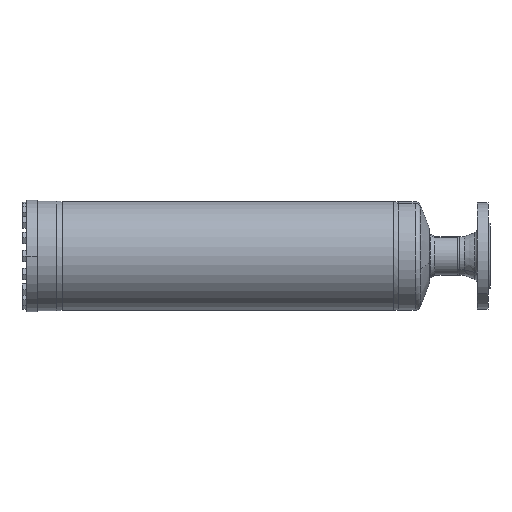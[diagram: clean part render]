
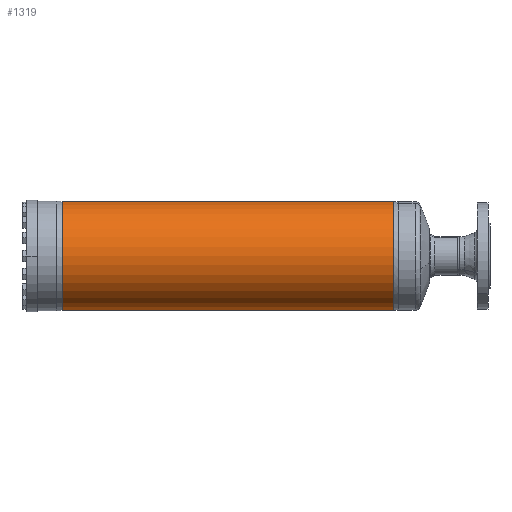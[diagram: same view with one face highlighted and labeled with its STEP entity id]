
A CAD part, left-side view. The second image highlights one B-rep face of the part: STEP entity #1319.
In plain terms, the highlighted cylindrical face has radius 84.15 mm (diameter 168.3 mm), a partial arc.
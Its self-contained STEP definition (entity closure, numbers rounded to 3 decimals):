
#16397 = CARTESIAN_POINT ( 'NONE',  ( 0., 516.536, 84.15 ) ) ;
#16609 = EDGE_CURVE ( 'NONE', #6185, #5025, #4671, .T. ) ;
#511 = ORIENTED_EDGE ( 'NONE', *, *, #8710, .F. ) ;
#17008 = ORIENTED_EDGE ( 'NONE', *, *, #16609, .T. ) ;
#1063 = EDGE_LOOP ( 'NONE', ( #511, #17008, #15897, #15344 ) ) ;
#1319 = ADVANCED_FACE ( 'NONE', ( #10488 ), #10489, .T. ) ;
#1887 = LINE ( 'NONE', #1888, #1889 ) ;
#1888 = CARTESIAN_POINT ( 'NONE',  ( 0., 0., -84.15 ) ) ;
#1889 = VECTOR ( 'NONE', #1890, 1000. ) ;
#1890 = DIRECTION ( 'NONE',  ( 0., -1., 0. ) ) ;
#3408 = CARTESIAN_POINT ( 'NONE',  ( 0., 3.464, -84.15 ) ) ;
#4671 = CIRCLE ( 'NONE', #4672, 84.15 ) ;
#4672 = AXIS2_PLACEMENT_3D ( 'NONE', #4673, #4674, #4675 ) ;
#4673 = CARTESIAN_POINT ( 'NONE',  ( 0., 516.536, 0. ) ) ;
#4674 = DIRECTION ( 'NONE',  ( 0., -1., 0. ) ) ;
#4675 = DIRECTION ( 'NONE',  ( 0., 0., -1. ) ) ;
#5025 = VERTEX_POINT ( 'NONE', #14219 ) ;
#5458 = CARTESIAN_POINT ( 'NONE',  ( 0., 3.464, 84.15 ) ) ;
#5742 = LINE ( 'NONE', #5743, #5744 ) ;
#5743 = CARTESIAN_POINT ( 'NONE',  ( 0., 0., 84.15 ) ) ;
#5744 = VECTOR ( 'NONE', #5745, 1000. ) ;
#5745 = DIRECTION ( 'NONE',  ( 0., -1., 0. ) ) ;
#6185 = VERTEX_POINT ( 'NONE', #16397 ) ;
#6941 = CIRCLE ( 'NONE', #6942, 84.15 ) ;
#6942 = AXIS2_PLACEMENT_3D ( 'NONE', #6943, #6944, #6945 ) ;
#6943 = CARTESIAN_POINT ( 'NONE',  ( 0., 3.464, 0. ) ) ;
#6944 = DIRECTION ( 'NONE',  ( 0., -1., 0. ) ) ;
#6945 = DIRECTION ( 'NONE',  ( 0., 0., -1. ) ) ;
#7635 = EDGE_CURVE ( 'NONE', #5025, #8435, #1887, .T. ) ;
#8435 = VERTEX_POINT ( 'NONE', #3408 ) ;
#8667 = VERTEX_POINT ( 'NONE', #5458 ) ;
#8710 = EDGE_CURVE ( 'NONE', #6185, #8667, #5742, .T. ) ;
#9086 = EDGE_CURVE ( 'NONE', #8667, #8435, #6941, .T. ) ;
#10488 = FACE_OUTER_BOUND ( 'NONE', #1063, .T. ) ;
#10489 = CYLINDRICAL_SURFACE ( 'NONE', #10490, 84.15 ) ;
#10490 = AXIS2_PLACEMENT_3D ( 'NONE', #10491, #10492, #10493 ) ;
#10491 = CARTESIAN_POINT ( 'NONE',  ( 0., 0., 0. ) ) ;
#10492 = DIRECTION ( 'NONE',  ( 0., -1., 0. ) ) ;
#10493 = DIRECTION ( 'NONE',  ( 0., 0., -1. ) ) ;
#14219 = CARTESIAN_POINT ( 'NONE',  ( 0., 516.536, -84.15 ) ) ;
#15344 = ORIENTED_EDGE ( 'NONE', *, *, #9086, .F. ) ;
#15897 = ORIENTED_EDGE ( 'NONE', *, *, #7635, .T. ) ;
